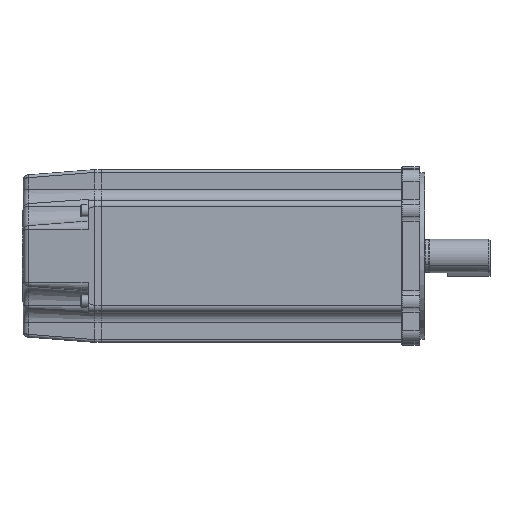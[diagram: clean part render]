
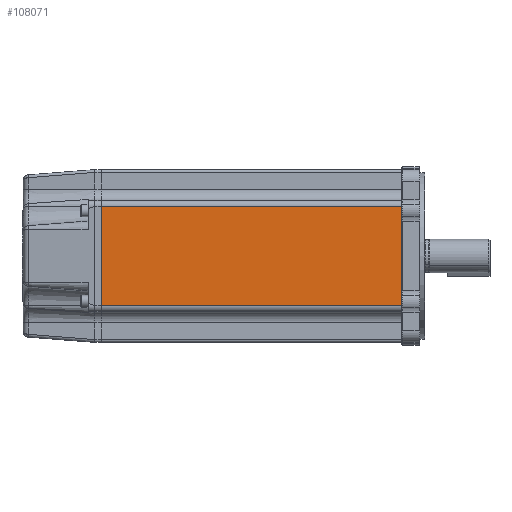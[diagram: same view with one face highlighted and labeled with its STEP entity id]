
A CAD part, front view. The second image highlights one B-rep face of the part: STEP entity #108071.
In plain terms, the highlighted planar face has unit normal (0, -1, 0).
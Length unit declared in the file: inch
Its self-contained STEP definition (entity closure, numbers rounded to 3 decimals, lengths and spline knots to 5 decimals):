
#9543 = CARTESIAN_POINT ( 'NONE',  ( -7.13, -1.935, -1.935 ) ) ;
#11342 = ORIENTED_EDGE ( 'NONE', *, *, #46447, .T. ) ;
#12276 = DIRECTION ( 'NONE',  ( 0., 0., 1. ) ) ;
#17368 = ORIENTED_EDGE ( 'NONE', *, *, #63694, .F. ) ;
#18921 = LINE ( 'NONE', #9543, #145223 ) ;
#22044 = DIRECTION ( 'NONE',  ( 0., 0., 1. ) ) ;
#24219 = CARTESIAN_POINT ( 'NONE',  ( -7.13, -1.935, -1.935 ) ) ;
#33356 = DIRECTION ( 'NONE',  ( 0., 0., 1. ) ) ;
#39284 = EDGE_CURVE ( 'NONE', #112607, #115995, #80814, .T. ) ;
#41667 = DIRECTION ( 'NONE',  ( 1., 0., 0. ) ) ;
#43857 = LINE ( 'NONE', #103486, #80798 ) ;
#46447 = EDGE_CURVE ( 'NONE', #92013, #112607, #106942, .T. ) ;
#47731 = VECTOR ( 'NONE', #96130, 39.37008 ) ;
#56784 = FACE_OUTER_BOUND ( 'NONE', #100963, .T. ) ;
#58779 = CARTESIAN_POINT ( 'NONE',  ( -7.13, -1.935, 1.12 ) ) ;
#61093 = PLANE ( 'NONE',  #128772 ) ;
#63694 = EDGE_CURVE ( 'NONE', #106974, #115995, #18921, .T. ) ;
#80798 = VECTOR ( 'NONE', #41667, 39.37008 ) ;
#80814 = LINE ( 'NONE', #58779, #47731 ) ;
#86636 = DIRECTION ( 'NONE',  ( 0., 1., 0. ) ) ;
#92013 = VERTEX_POINT ( 'NONE', #105650 ) ;
#96130 = DIRECTION ( 'NONE',  ( -1., 0., 0. ) ) ;
#100963 = EDGE_LOOP ( 'NONE', ( #11342, #139566, #17368, #145204 ) ) ;
#101055 = CARTESIAN_POINT ( 'NONE',  ( -7.13, -1.935, -1.12 ) ) ;
#103486 = CARTESIAN_POINT ( 'NONE',  ( -0.4, -1.935, -1.12 ) ) ;
#105650 = CARTESIAN_POINT ( 'NONE',  ( -0.4, -1.935, -1.12 ) ) ;
#106942 = LINE ( 'NONE', #107628, #143771 ) ;
#106974 = VERTEX_POINT ( 'NONE', #101055 ) ;
#107628 = CARTESIAN_POINT ( 'NONE',  ( -0.4, -1.935, -1.935 ) ) ;
#108071 = ADVANCED_FACE ( 'NONE', ( #56784 ), #61093, .F. ) ;
#112607 = VERTEX_POINT ( 'NONE', #151996 ) ;
#113588 = CARTESIAN_POINT ( 'NONE',  ( -7.13, -1.935, 1.12 ) ) ;
#115995 = VERTEX_POINT ( 'NONE', #113588 ) ;
#128772 = AXIS2_PLACEMENT_3D ( 'NONE', #24219, #86636, #12276 ) ;
#139566 = ORIENTED_EDGE ( 'NONE', *, *, #39284, .T. ) ;
#143771 = VECTOR ( 'NONE', #33356, 39.37008 ) ;
#145204 = ORIENTED_EDGE ( 'NONE', *, *, #149863, .T. ) ;
#145223 = VECTOR ( 'NONE', #22044, 39.37008 ) ;
#149863 = EDGE_CURVE ( 'NONE', #106974, #92013, #43857, .T. ) ;
#151996 = CARTESIAN_POINT ( 'NONE',  ( -0.4, -1.935, 1.12 ) ) ;
